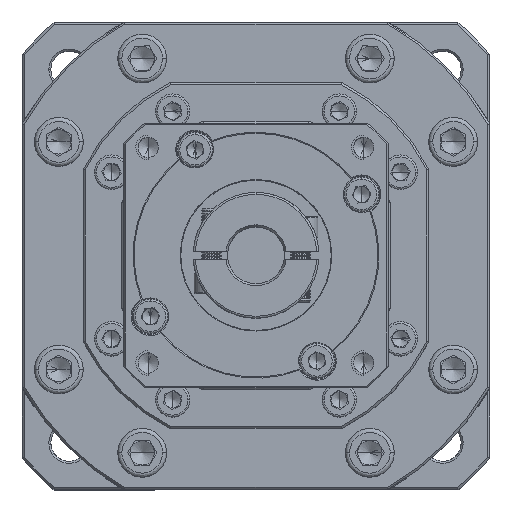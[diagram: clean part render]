
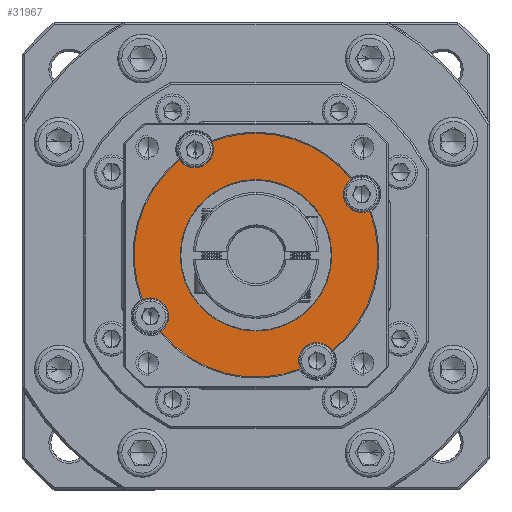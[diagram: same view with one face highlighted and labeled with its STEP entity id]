
A CAD part, top view. The second image highlights one B-rep face of the part: STEP entity #31967.
In plain terms, the highlighted planar face has unit normal (0, 0, 1).
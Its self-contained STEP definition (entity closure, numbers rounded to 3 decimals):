
#404 = DIRECTION ( 'NONE',  ( 0., 0., 1. ) ) ;
#654 = EDGE_CURVE ( 'NONE', #64793, #131185, #3391, .T. ) ;
#944 = CIRCLE ( 'NONE', #82810, 18.644 ) ;
#989 = VERTEX_POINT ( 'NONE', #32853 ) ;
#1501 = DIRECTION ( 'NONE',  ( 0., 1., 0. ) ) ;
#2449 = ORIENTED_EDGE ( 'NONE', *, *, #101292, .F. ) ;
#3267 = ORIENTED_EDGE ( 'NONE', *, *, #31066, .T. ) ;
#3391 = CIRCLE ( 'NONE', #60633, 30. ) ;
#3907 = CIRCLE ( 'NONE', #37643, 4.5 ) ;
#7970 = EDGE_CURVE ( 'NONE', #100484, #28499, #95654, .T. ) ;
#8422 = AXIS2_PLACEMENT_3D ( 'NONE', #118107, #108831, #130696 ) ;
#9952 = AXIS2_PLACEMENT_3D ( 'NONE', #113928, #45577, #100810 ) ;
#10733 = ORIENTED_EDGE ( 'NONE', *, *, #57721, .F. ) ;
#10937 = DIRECTION ( 'NONE',  ( 0., 0., 1. ) ) ;
#11501 = DIRECTION ( 'NONE',  ( 0., 1., 0. ) ) ;
#14009 = ORIENTED_EDGE ( 'NONE', *, *, #22672, .T. ) ;
#15300 = CARTESIAN_POINT ( 'NONE',  ( 77.011, 64.972, -14.038 ) ) ;
#15938 = DIRECTION ( 'NONE',  ( 0., 0., -1. ) ) ;
#19728 = CARTESIAN_POINT ( 'NONE',  ( 40.085, 77.904, -14.038 ) ) ;
#20090 = DIRECTION ( 'NONE',  ( 0., 0., 1. ) ) ;
#22113 = ORIENTED_EDGE ( 'NONE', *, *, #136917, .T. ) ;
#22672 = EDGE_CURVE ( 'NONE', #57311, #40041, #944, .T. ) ;
#23309 = DIRECTION ( 'NONE',  ( 0., 0., 1. ) ) ;
#23757 = DIRECTION ( 'NONE',  ( 0., 1., 0. ) ) ;
#25261 = DIRECTION ( 'NONE',  ( 0., 1., 0. ) ) ;
#25469 = CARTESIAN_POINT ( 'NONE',  ( 92.047, 103.404, -14.038 ) ) ;
#25903 = DIRECTION ( 'NONE',  ( 0., 1., 0. ) ) ;
#26103 = CARTESIAN_POINT ( 'NONE',  ( 66.066, 92.904, -14.038 ) ) ;
#26387 = EDGE_CURVE ( 'NONE', #126320, #131185, #3907, .T. ) ;
#26598 = AXIS2_PLACEMENT_3D ( 'NONE', #100138, #404, #109875 ) ;
#28499 = VERTEX_POINT ( 'NONE', #62671 ) ;
#31066 = EDGE_CURVE ( 'NONE', #77615, #100484, #68721, .T. ) ;
#31194 = DIRECTION ( 'NONE',  ( 0., 1., 0. ) ) ;
#31967 = ADVANCED_FACE ( 'NONE', ( #77060, #90982 ), #123086, .T. ) ;
#32853 = CARTESIAN_POINT ( 'NONE',  ( 47.349, 116.349, -14.038 ) ) ;
#34202 = DIRECTION ( 'NONE',  ( 0., 0., 1. ) ) ;
#34614 = CARTESIAN_POINT ( 'NONE',  ( 66.066, 122.904, -14.038 ) ) ;
#36852 = DIRECTION ( 'NONE',  ( 0., 0., 1. ) ) ;
#37643 = AXIS2_PLACEMENT_3D ( 'NONE', #53545, #86950, #119571 ) ;
#40041 = VERTEX_POINT ( 'NONE', #79834 ) ;
#43078 = DIRECTION ( 'NONE',  ( 0., 1., 0. ) ) ;
#43803 = CARTESIAN_POINT ( 'NONE',  ( 93.998, 103.85, -14.038 ) ) ;
#43919 = CARTESIAN_POINT ( 'NONE',  ( 81.066, 66.924, -14.038 ) ) ;
#44077 = AXIS2_PLACEMENT_3D ( 'NONE', #48895, #36852, #25261 ) ;
#45577 = DIRECTION ( 'NONE',  ( 0., 0., 1. ) ) ;
#45779 = DIRECTION ( 'NONE',  ( 0., 1., 0. ) ) ;
#46525 = VERTEX_POINT ( 'NONE', #98953 ) ;
#46732 = CIRCLE ( 'NONE', #111731, 4.5 ) ;
#47217 = DIRECTION ( 'NONE',  ( 0., 0., 1. ) ) ;
#48547 = EDGE_LOOP ( 'NONE', ( #10733, #72064, #110661, #59172, #3267, #121170, #128915, #86477, #122764, #140973, #98881, #22113, #2449 ) ) ;
#48895 = CARTESIAN_POINT ( 'NONE',  ( 66.066, 92.904, -14.038 ) ) ;
#49057 = ORIENTED_EDGE ( 'NONE', *, *, #72437, .T. ) ;
#52910 = VERTEX_POINT ( 'NONE', #85003 ) ;
#53545 = CARTESIAN_POINT ( 'NONE',  ( 92.047, 107.904, -14.038 ) ) ;
#54154 = AXIS2_PLACEMENT_3D ( 'NONE', #113639, #47217, #45779 ) ;
#55201 = VERTEX_POINT ( 'NONE', #129508 ) ;
#56161 = AXIS2_PLACEMENT_3D ( 'NONE', #78650, #34202, #101016 ) ;
#57311 = VERTEX_POINT ( 'NONE', #101772 ) ;
#57721 = EDGE_CURVE ( 'NONE', #64793, #55201, #58871, .T. ) ;
#58871 = CIRCLE ( 'NONE', #26598, 4.5 ) ;
#58907 = EDGE_LOOP ( 'NONE', ( #49057, #14009 ) ) ;
#59172 = ORIENTED_EDGE ( 'NONE', *, *, #68824, .F. ) ;
#59445 = CARTESIAN_POINT ( 'NONE',  ( 84.784, 69.46, -14.038 ) ) ;
#59770 = CIRCLE ( 'NONE', #134702, 4.5 ) ;
#60633 = AXIS2_PLACEMENT_3D ( 'NONE', #72823, #83926, #82511 ) ;
#61067 = CIRCLE ( 'NONE', #9952, 4.5 ) ;
#62018 = EDGE_CURVE ( 'NONE', #989, #46525, #64086, .T. ) ;
#62671 = CARTESIAN_POINT ( 'NONE',  ( 55.121, 120.837, -14.038 ) ) ;
#64086 = CIRCLE ( 'NONE', #56161, 4.5 ) ;
#64793 = VERTEX_POINT ( 'NONE', #59445 ) ;
#67194 = CIRCLE ( 'NONE', #8422, 30. ) ;
#68721 = CIRCLE ( 'NONE', #54154, 30. ) ;
#68824 = EDGE_CURVE ( 'NONE', #77615, #126320, #61067, .T. ) ;
#72064 = ORIENTED_EDGE ( 'NONE', *, *, #654, .T. ) ;
#72437 = EDGE_CURVE ( 'NONE', #40041, #57311, #79858, .T. ) ;
#72823 = CARTESIAN_POINT ( 'NONE',  ( 66.066, 92.904, -14.038 ) ) ;
#73673 = EDGE_CURVE ( 'NONE', #989, #142568, #107271, .T. ) ;
#77060 = FACE_BOUND ( 'NONE', #58907, .T. ) ;
#77615 = VERTEX_POINT ( 'NONE', #141537 ) ;
#77858 = DIRECTION ( 'NONE',  ( 0., 0., 1. ) ) ;
#78650 = CARTESIAN_POINT ( 'NONE',  ( 51.066, 118.885, -14.038 ) ) ;
#79834 = CARTESIAN_POINT ( 'NONE',  ( 66.066, 111.549, -14.038 ) ) ;
#79858 = CIRCLE ( 'NONE', #121019, 18.644 ) ;
#81071 = CARTESIAN_POINT ( 'NONE',  ( 66.066, 92.904, -14.038 ) ) ;
#82511 = DIRECTION ( 'NONE',  ( 0., 1., 0. ) ) ;
#82748 = CIRCLE ( 'NONE', #113359, 4.5 ) ;
#82810 = AXIS2_PLACEMENT_3D ( 'NONE', #26103, #15938, #115279 ) ;
#83185 = EDGE_CURVE ( 'NONE', #52910, #98697, #46732, .T. ) ;
#83428 = DIRECTION ( 'NONE',  ( 0., 1., 0. ) ) ;
#83926 = DIRECTION ( 'NONE',  ( 0., 0., 1. ) ) ;
#85003 = CARTESIAN_POINT ( 'NONE',  ( 42.621, 74.187, -14.038 ) ) ;
#86477 = ORIENTED_EDGE ( 'NONE', *, *, #62018, .F. ) ;
#86950 = DIRECTION ( 'NONE',  ( 0., 0., 1. ) ) ;
#87487 = DIRECTION ( 'NONE',  ( 0., 0., 1. ) ) ;
#89723 = EDGE_CURVE ( 'NONE', #98697, #142568, #104176, .T. ) ;
#90982 = FACE_OUTER_BOUND ( 'NONE', #48547, .T. ) ;
#95654 = CIRCLE ( 'NONE', #117733, 30. ) ;
#98697 = VERTEX_POINT ( 'NONE', #99264 ) ;
#98881 = ORIENTED_EDGE ( 'NONE', *, *, #83185, .F. ) ;
#98953 = CARTESIAN_POINT ( 'NONE',  ( 51.066, 114.385, -14.038 ) ) ;
#99264 = CARTESIAN_POINT ( 'NONE',  ( 40.085, 82.404, -14.038 ) ) ;
#100138 = CARTESIAN_POINT ( 'NONE',  ( 81.066, 66.924, -14.038 ) ) ;
#100484 = VERTEX_POINT ( 'NONE', #34614 ) ;
#100603 = CARTESIAN_POINT ( 'NONE',  ( 38.134, 81.959, -14.038 ) ) ;
#100810 = DIRECTION ( 'NONE',  ( 0., 1., 0. ) ) ;
#101016 = DIRECTION ( 'NONE',  ( 0., 1., 0. ) ) ;
#101292 = EDGE_CURVE ( 'NONE', #55201, #105348, #59770, .T. ) ;
#101772 = CARTESIAN_POINT ( 'NONE',  ( 66.066, 74.26, -14.038 ) ) ;
#104176 = CIRCLE ( 'NONE', #104234, 4.5 ) ;
#104234 = AXIS2_PLACEMENT_3D ( 'NONE', #19728, #10937, #25903 ) ;
#105348 = VERTEX_POINT ( 'NONE', #15300 ) ;
#107271 = CIRCLE ( 'NONE', #44077, 30. ) ;
#108831 = DIRECTION ( 'NONE',  ( 0., 0., 1. ) ) ;
#109875 = DIRECTION ( 'NONE',  ( 0., 1., 0. ) ) ;
#110418 = CARTESIAN_POINT ( 'NONE',  ( 66.066, 92.904, -14.038 ) ) ;
#110661 = ORIENTED_EDGE ( 'NONE', *, *, #26387, .F. ) ;
#111731 = AXIS2_PLACEMENT_3D ( 'NONE', #143130, #20090, #31194 ) ;
#112883 = CARTESIAN_POINT ( 'NONE',  ( 51.066, 118.885, -14.038 ) ) ;
#113359 = AXIS2_PLACEMENT_3D ( 'NONE', #112883, #23309, #1501 ) ;
#113639 = CARTESIAN_POINT ( 'NONE',  ( 66.066, 92.904, -14.038 ) ) ;
#113928 = CARTESIAN_POINT ( 'NONE',  ( 92.047, 107.904, -14.038 ) ) ;
#115279 = DIRECTION ( 'NONE',  ( 0., 1., 0. ) ) ;
#117013 = DIRECTION ( 'NONE',  ( 0., 0., -1. ) ) ;
#117733 = AXIS2_PLACEMENT_3D ( 'NONE', #110418, #120680, #43078 ) ;
#118107 = CARTESIAN_POINT ( 'NONE',  ( 66.066, 92.904, -14.038 ) ) ;
#119571 = DIRECTION ( 'NONE',  ( 0., 1., 0. ) ) ;
#120680 = DIRECTION ( 'NONE',  ( 0., 0., 1. ) ) ;
#121019 = AXIS2_PLACEMENT_3D ( 'NONE', #81071, #117013, #83428 ) ;
#121170 = ORIENTED_EDGE ( 'NONE', *, *, #7970, .T. ) ;
#122147 = CARTESIAN_POINT ( 'NONE',  ( 66.066, 92.904, -14.038 ) ) ;
#122764 = ORIENTED_EDGE ( 'NONE', *, *, #73673, .T. ) ;
#123086 = PLANE ( 'NONE',  #138925 ) ;
#126320 = VERTEX_POINT ( 'NONE', #25469 ) ;
#127106 = EDGE_CURVE ( 'NONE', #46525, #28499, #82748, .T. ) ;
#128915 = ORIENTED_EDGE ( 'NONE', *, *, #127106, .F. ) ;
#129508 = CARTESIAN_POINT ( 'NONE',  ( 81.066, 71.424, -14.038 ) ) ;
#130696 = DIRECTION ( 'NONE',  ( 0., 1., 0. ) ) ;
#131185 = VERTEX_POINT ( 'NONE', #43803 ) ;
#134702 = AXIS2_PLACEMENT_3D ( 'NONE', #43919, #87487, #11501 ) ;
#136917 = EDGE_CURVE ( 'NONE', #52910, #105348, #67194, .T. ) ;
#138925 = AXIS2_PLACEMENT_3D ( 'NONE', #122147, #77858, #23757 ) ;
#140973 = ORIENTED_EDGE ( 'NONE', *, *, #89723, .F. ) ;
#141537 = CARTESIAN_POINT ( 'NONE',  ( 89.511, 111.622, -14.038 ) ) ;
#142568 = VERTEX_POINT ( 'NONE', #100603 ) ;
#143130 = CARTESIAN_POINT ( 'NONE',  ( 40.085, 77.904, -14.038 ) ) ;
